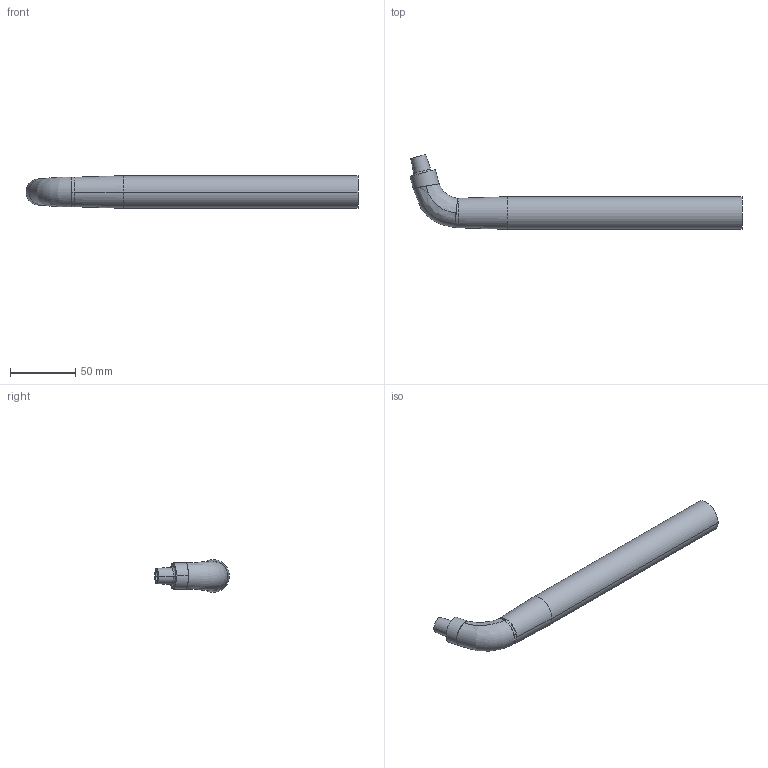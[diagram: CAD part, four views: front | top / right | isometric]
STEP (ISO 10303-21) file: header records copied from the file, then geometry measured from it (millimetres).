
FILE_DESCRIPTION( (''), '2;1');
FILE_NAME ('SY-2080-11_TB-25250-15-C2.stp','2022-04-09T22:04:53',(''),(''),'spGate 18.9.3 (****-****-****-****)','','');
FILE_SCHEMA (('AUTOMOTIVE_DESIGN'));
Length unit declared in the file: millimetre
Products named in the file (17): Assembly; SY-2080-11_TB-25250-15-C2-prt0; SY-2080-11_TB-25250-15-C2-prt1; SY-2080-11_TB-25250-15-C2-prt2; SY-2080-11_TB-25250-15-C2-prt3; SY-2080-11_TB-25250-15-C2-prt4; SY-2080-11_TB-25250-15-C2-prt5; SY-2080-11_TB-25250-15-C2-prt6; SY-2080-11_TB-25250-15-C2-prt7; SY-2080-11_TB-25250-15-C2-prt8; SY-2080-11_TB-25250-15-C2-prt9; SY-2080-11_TB-25250-15-C2-prt10; SY-2080-11_TB-25250-15-C2-prt11; SY-2080-11_TB-25250-15-C2-prt12; SY-2080-11_TB-25250-15-C2-prt13; SY-2080-11_TB-25250-15-C2-prt14; SY-2080-11_TB-25250-15-C2-prt15
Assembly tree (16 placements, depth 2):
  Assembly
    SY-2080-11_TB-25250-15-C2-prt0
    SY-2080-11_TB-25250-15-C2-prt1
    SY-2080-11_TB-25250-15-C2-prt2
    SY-2080-11_TB-25250-15-C2-prt3
    SY-2080-11_TB-25250-15-C2-prt4
    SY-2080-11_TB-25250-15-C2-prt5
    SY-2080-11_TB-25250-15-C2-prt6
    SY-2080-11_TB-25250-15-C2-prt7
    SY-2080-11_TB-25250-15-C2-prt8
    SY-2080-11_TB-25250-15-C2-prt9
    SY-2080-11_TB-25250-15-C2-prt10
    SY-2080-11_TB-25250-15-C2-prt11
    SY-2080-11_TB-25250-15-C2-prt12
    SY-2080-11_TB-25250-15-C2-prt13
    SY-2080-11_TB-25250-15-C2-prt14
    SY-2080-11_TB-25250-15-C2-prt15
Bounding box: 254.48 x 57.27 x 25 mm (x, y, z)
Volume: 103722.9 mm3; surface area: 29141.6 mm2
Topology: 1 solids, 1 shells, 43 faces, 112 edges, 88 vertices
Faces by surface type: bspline 20, cylinder 12, plane 11
Entity records: 3848 total; most frequent: CARTESIAN_POINT 1731, DIRECTION 221, ORIENTED_EDGE 192, COLOUR_RGB 155, PRESENTATION_STYLE_ASSIGNMENT 155, STYLED_ITEM 155, DRAUGHTING_PRE_DEFINED_CURVE_FONT 111, CURVE_STYLE 111
